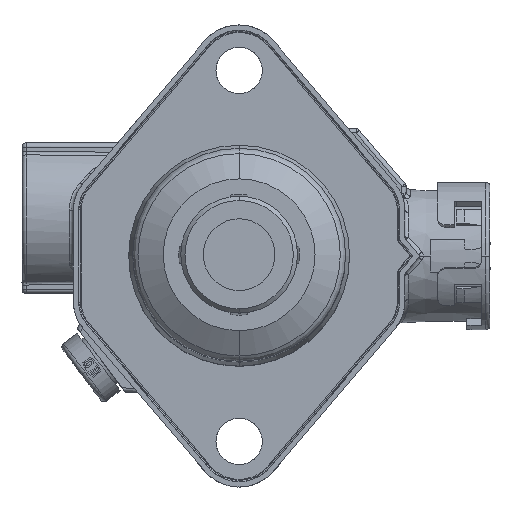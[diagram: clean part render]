
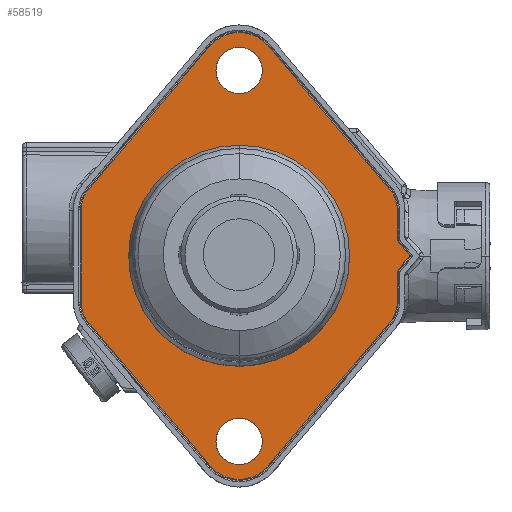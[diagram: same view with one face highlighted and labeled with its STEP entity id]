
A CAD part, top view. The second image highlights one B-rep face of the part: STEP entity #58519.
In plain terms, the highlighted planar face has unit normal (0, 0, 1).
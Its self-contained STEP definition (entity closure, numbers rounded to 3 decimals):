
#21492=CARTESIAN_POINT('',(0.,-44.,-78.701));
#21493=DIRECTION('',(0.,0.,1.));
#21494=DIRECTION('',(-0.763,-0.647,0.));
#21495=AXIS2_PLACEMENT_3D('',#21492,#21493,#21494);
#21500=DIRECTION('',(0.647,-0.763,0.));
#21501=VECTOR('',#21500,44.614);
#21502=CARTESIAN_POINT('',(-35.72,-15.795,
-78.701));
#21503=LINE('',#21502,#21501);
#21507=CARTESIAN_POINT('',(-30.,-10.944,-78.701));
#21508=DIRECTION('',(0.,0.,1.));
#21509=DIRECTION('',(-1.,0.,0.));
#21510=AXIS2_PLACEMENT_3D('',#21507,#21508,#21509);
#21515=DIRECTION('',(0.,-1.,0.));
#21516=VECTOR('',#21515,21.889);
#21517=CARTESIAN_POINT('',(-37.5,10.944,-78.701));
#21518=LINE('',#21517,#21516);
#21522=CARTESIAN_POINT('',(-30.,10.944,-78.701));
#21523=DIRECTION('',(0.,0.,1.));
#21524=DIRECTION('',(-0.763,0.647,0.));
#21525=AXIS2_PLACEMENT_3D('',#21522,#21523,#21524);
#21530=DIRECTION('',(-0.647,-0.763,0.));
#21531=VECTOR('',#21530,44.614);
#21532=CARTESIAN_POINT('',(-6.864,49.821,
-78.701));
#21533=LINE('',#21532,#21531);
#21537=CARTESIAN_POINT('',(0.,44.,-78.701));
#21538=DIRECTION('',(0.,0.,1.));
#21539=DIRECTION('',(0.763,0.647,0.));
#21540=AXIS2_PLACEMENT_3D('',#21537,#21538,#21539);
#21545=DIRECTION('',(-0.647,0.763,0.));
#21546=VECTOR('',#21545,44.614);
#21547=CARTESIAN_POINT('',(35.72,15.795,
-78.701));
#21548=LINE('',#21547,#21546);
#21552=CARTESIAN_POINT('',(30.,10.944,-78.701));
#21553=DIRECTION('',(0.,0.,1.));
#21554=DIRECTION('',(1.,0.,0.));
#21555=AXIS2_PLACEMENT_3D('',#21552,#21553,#21554);
#21560=DIRECTION('',(0.,1.,0.));
#21561=VECTOR('',#21560,7.369);
#21562=CARTESIAN_POINT('',(37.5,3.575,-78.701));
#21563=LINE('',#21562,#21561);
#21567=DIRECTION('',(-0.643,0.766,0.));
#21568=VECTOR('',#21567,4.667);
#21569=CARTESIAN_POINT('',(40.5,0.,-78.701));
#21570=LINE('',#21569,#21568);
#21574=DIRECTION('',(0.643,0.766,0.));
#21575=VECTOR('',#21574,4.667);
#21576=CARTESIAN_POINT('',(37.5,-3.575,-78.701));
#21577=LINE('',#21576,#21575);
#21581=DIRECTION('',(0.,1.,0.));
#21582=VECTOR('',#21581,7.369);
#21583=CARTESIAN_POINT('',(37.5,-10.944,-78.701));
#21584=LINE('',#21583,#21582);
#21588=CARTESIAN_POINT('',(30.,-10.944,
-78.701));
#21589=DIRECTION('',(0.,0.,1.));
#21590=DIRECTION('',(0.763,-0.647,0.));
#21591=AXIS2_PLACEMENT_3D('',#21588,#21589,#21590);
#21596=DIRECTION('',(0.647,0.763,0.));
#21597=VECTOR('',#21596,44.614);
#21598=CARTESIAN_POINT('',(6.864,-49.821,
-78.701));
#21599=LINE('',#21598,#21597);
#21603=CARTESIAN_POINT('',(0.,44.,-78.701));
#21604=DIRECTION('',(0.,0.,-1.));
#21605=DIRECTION('',(0.,1.,0.));
#21606=AXIS2_PLACEMENT_3D('',#21603,#21604,#21605);
#21611=CARTESIAN_POINT('',(0.,44.,-78.701));
#21612=DIRECTION('',(0.,0.,-1.));
#21613=DIRECTION('',(0.,-1.,0.));
#21614=AXIS2_PLACEMENT_3D('',#21611,#21612,#21613);
#21619=CARTESIAN_POINT('',(0.,-44.,-78.701));
#21620=DIRECTION('',(0.,0.,-1.));
#21621=DIRECTION('',(0.,1.,0.));
#21622=AXIS2_PLACEMENT_3D('',#21619,#21620,#21621);
#21627=CARTESIAN_POINT('',(0.,-44.,-78.701));
#21628=DIRECTION('',(0.,0.,-1.));
#21629=DIRECTION('',(0.,-1.,0.));
#21630=AXIS2_PLACEMENT_3D('',#21627,#21628,#21629);
#21635=CARTESIAN_POINT('',(0.,0.,-78.701));
#21636=DIRECTION('',(0.,0.,1.));
#21637=DIRECTION('',(0.,1.,0.));
#21638=AXIS2_PLACEMENT_3D('',#21635,#21636,#21637);
#21643=CARTESIAN_POINT('',(0.,0.,-78.701));
#21644=DIRECTION('',(0.,0.,1.));
#21645=DIRECTION('',(0.,-1.,0.));
#21646=AXIS2_PLACEMENT_3D('',#21643,#21644,#21645);
#29895=CARTESIAN_POINT('',(0.,26.2,-78.701));
#29896=CARTESIAN_POINT('',(0.,-26.2,-78.701));
#29897=VERTEX_POINT('',#29895);
#29898=VERTEX_POINT('',#29896);
#31546=CARTESIAN_POINT('',(35.72,-15.795,
-78.701));
#31547=CARTESIAN_POINT('',(37.5,-10.944,-78.701));
#31548=VERTEX_POINT('',#31546);
#31549=VERTEX_POINT('',#31547);
#31550=CARTESIAN_POINT('',(37.5,-3.575,-78.701));
#31551=VERTEX_POINT('',#31550);
#31552=CARTESIAN_POINT('',(40.5,0.,-78.701));
#31553=VERTEX_POINT('',#31552);
#31554=CARTESIAN_POINT('',(37.5,3.575,-78.701));
#31555=VERTEX_POINT('',#31554);
#31556=CARTESIAN_POINT('',(37.5,10.944,-78.701));
#31557=VERTEX_POINT('',#31556);
#31558=CARTESIAN_POINT('',(35.72,15.795,
-78.701));
#31559=VERTEX_POINT('',#31558);
#31560=CARTESIAN_POINT('',(6.864,49.821,
-78.701));
#31561=VERTEX_POINT('',#31560);
#31562=CARTESIAN_POINT('',(-6.864,49.821,
-78.701));
#31563=VERTEX_POINT('',#31562);
#31564=CARTESIAN_POINT('',(-35.72,15.795,
-78.701));
#31565=VERTEX_POINT('',#31564);
#31566=CARTESIAN_POINT('',(-37.5,10.944,-78.701));
#31567=VERTEX_POINT('',#31566);
#31568=CARTESIAN_POINT('',(-37.5,-10.944,-78.701));
#31569=VERTEX_POINT('',#31568);
#31570=CARTESIAN_POINT('',(-35.72,-15.795,
-78.701));
#31571=VERTEX_POINT('',#31570);
#31572=CARTESIAN_POINT('',(-6.864,-49.821,
-78.701));
#31573=VERTEX_POINT('',#31572);
#31574=CARTESIAN_POINT('',(6.864,-49.821,
-78.701));
#31575=VERTEX_POINT('',#31574);
#31576=CARTESIAN_POINT('',(0.,49.5,-78.701));
#31577=CARTESIAN_POINT('',(0.,38.5,-78.701));
#31578=VERTEX_POINT('',#31576);
#31579=VERTEX_POINT('',#31577);
#31580=CARTESIAN_POINT('',(0.,-38.5,-78.701));
#31581=CARTESIAN_POINT('',(0.,-49.5,-78.701));
#31582=VERTEX_POINT('',#31580);
#31583=VERTEX_POINT('',#31581);
#58466=CARTESIAN_POINT('',(0.,0.,-78.701));
#58467=DIRECTION('',(0.,0.,1.));
#58468=DIRECTION('',(0.,-1.,0.));
#58469=AXIS2_PLACEMENT_3D('',#58466,#58467,#58468);
#58470=PLANE('',#58469);
#58472=ORIENTED_EDGE('',*,*,#58471,.F.);
#58474=ORIENTED_EDGE('',*,*,#58473,.F.);
#58476=ORIENTED_EDGE('',*,*,#58475,.F.);
#58478=ORIENTED_EDGE('',*,*,#58477,.F.);
#58480=ORIENTED_EDGE('',*,*,#58479,.F.);
#58482=ORIENTED_EDGE('',*,*,#58481,.F.);
#58484=ORIENTED_EDGE('',*,*,#58483,.F.);
#58486=ORIENTED_EDGE('',*,*,#58485,.F.);
#58488=ORIENTED_EDGE('',*,*,#58487,.F.);
#58490=ORIENTED_EDGE('',*,*,#58489,.F.);
#58492=ORIENTED_EDGE('',*,*,#58491,.F.);
#58494=ORIENTED_EDGE('',*,*,#58493,.F.);
#58496=ORIENTED_EDGE('',*,*,#58495,.F.);
#58498=ORIENTED_EDGE('',*,*,#58497,.F.);
#58500=ORIENTED_EDGE('',*,*,#58499,.F.);
#58501=EDGE_LOOP('',(#58472,#58474,#58476,#58478,#58480,#58482,#58484,#58486,
#58488,#58490,#58492,#58494,#58496,#58498,#58500));
#58502=FACE_OUTER_BOUND('',#58501,.F.);
#58503=ORIENTED_EDGE('',*,*,#58461,.F.);
#58504=ORIENTED_EDGE('',*,*,#58448,.F.);
#58505=EDGE_LOOP('',(#58503,#58504));
#58506=FACE_BOUND('',#58505,.F.);
#58508=ORIENTED_EDGE('',*,*,#58507,.F.);
#58510=ORIENTED_EDGE('',*,*,#58509,.F.);
#58511=EDGE_LOOP('',(#58508,#58510));
#58512=FACE_BOUND('',#58511,.F.);
#58514=ORIENTED_EDGE('',*,*,#58513,.T.);
#58516=ORIENTED_EDGE('',*,*,#58515,.T.);
#58517=EDGE_LOOP('',(#58514,#58516));
#58518=FACE_BOUND('',#58517,.F.);
#21496=CIRCLE('',#21495,9.);
#21511=CIRCLE('',#21510,7.5);
#21526=CIRCLE('',#21525,7.5);
#21541=CIRCLE('',#21540,9.);
#21556=CIRCLE('',#21555,7.5);
#21592=CIRCLE('',#21591,7.5);
#21607=CIRCLE('',#21606,5.5);
#21615=CIRCLE('',#21614,5.5);
#21623=CIRCLE('',#21622,5.5);
#21631=CIRCLE('',#21630,5.5);
#21639=CIRCLE('',#21638,26.2);
#21647=CIRCLE('',#21646,26.2);
#58448=EDGE_CURVE('',#31579,#31578,#21615,.T.);
#58461=EDGE_CURVE('',#31578,#31579,#21607,.T.);
#58471=EDGE_CURVE('',#31573,#31575,#21496,.T.);
#58473=EDGE_CURVE('',#31571,#31573,#21503,.T.);
#58475=EDGE_CURVE('',#31569,#31571,#21511,.T.);
#58477=EDGE_CURVE('',#31567,#31569,#21518,.T.);
#58479=EDGE_CURVE('',#31565,#31567,#21526,.T.);
#58481=EDGE_CURVE('',#31563,#31565,#21533,.T.);
#58483=EDGE_CURVE('',#31561,#31563,#21541,.T.);
#58485=EDGE_CURVE('',#31559,#31561,#21548,.T.);
#58487=EDGE_CURVE('',#31557,#31559,#21556,.T.);
#58489=EDGE_CURVE('',#31555,#31557,#21563,.T.);
#58491=EDGE_CURVE('',#31553,#31555,#21570,.T.);
#58493=EDGE_CURVE('',#31551,#31553,#21577,.T.);
#58495=EDGE_CURVE('',#31549,#31551,#21584,.T.);
#58497=EDGE_CURVE('',#31548,#31549,#21592,.T.);
#58499=EDGE_CURVE('',#31575,#31548,#21599,.T.);
#58507=EDGE_CURVE('',#31582,#31583,#21623,.T.);
#58509=EDGE_CURVE('',#31583,#31582,#21631,.T.);
#58513=EDGE_CURVE('',#29897,#29898,#21639,.T.);
#58515=EDGE_CURVE('',#29898,#29897,#21647,.T.);
#58519=ADVANCED_FACE('',(#58502,#58506,#58512,#58518),#58470,.T.);
